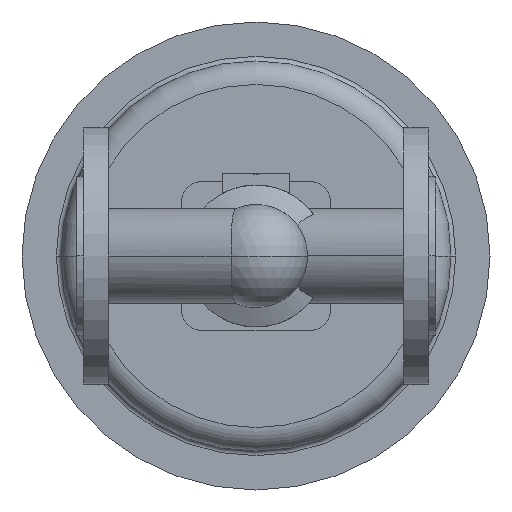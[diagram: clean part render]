
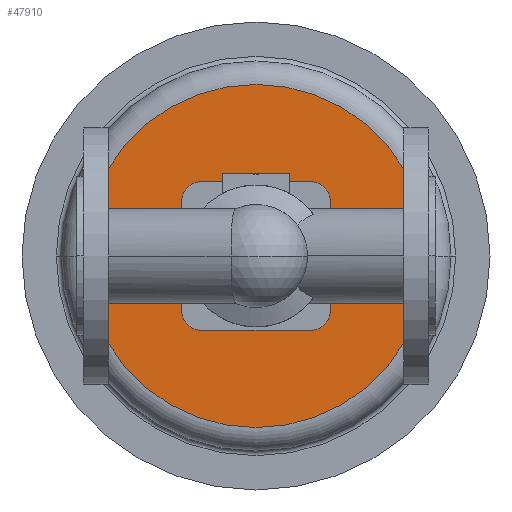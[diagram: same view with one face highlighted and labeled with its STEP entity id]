
A CAD part, front view. The second image highlights one B-rep face of the part: STEP entity #47910.
In plain terms, the highlighted planar face has unit normal (0, -1, 0).
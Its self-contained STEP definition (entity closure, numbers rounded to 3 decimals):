
#34390=CARTESIAN_POINT('',(5.,369.,0.));
#34400=VERTEX_POINT('',#34390);
#34430=CARTESIAN_POINT('',(115.,369.,0.));
#34440=DIRECTION('',(0.,1.,0.));
#34450=DIRECTION('',(1.,0.,0.));
#34460=AXIS2_PLACEMENT_3D('',#34430,#34440,#34450);
#34470=CIRCLE('',#34460,110.);
#34480=CARTESIAN_POINT('',(115.,369.,-110.));
#34490=VERTEX_POINT('',#34480);
#34500=EDGE_CURVE('',#34490,#34400,#34470,.T.);
#34520=CARTESIAN_POINT('',(225.,369.,0.));
#34530=VERTEX_POINT('',#34520);
#34540=EDGE_CURVE('',#34530,#34490,#34470,.T.);
#35210=CARTESIAN_POINT('',(150.,369.,0.));
#35220=VERTEX_POINT('',#35210);
#35380=CARTESIAN_POINT('',(180.,369.,0.));
#35390=VERTEX_POINT('',#35380);
#35420=CARTESIAN_POINT('',(165.,369.,0.));
#35430=DIRECTION('',(0.,1.,0.));
#35440=DIRECTION('',(1.,0.,0.));
#35450=AXIS2_PLACEMENT_3D('',#35420,#35430,#35440);
#35460=CIRCLE('',#35450,15.);
#35470=EDGE_CURVE('',#35390,#35220,#35460,.T.);
#35630=CARTESIAN_POINT('',(50.,369.,0.));
#35640=VERTEX_POINT('',#35630);
#35800=CARTESIAN_POINT('',(80.,369.,0.));
#35810=VERTEX_POINT('',#35800);
#35840=CARTESIAN_POINT('',(65.,369.,0.));
#35850=DIRECTION('',(0.,1.,0.));
#35860=DIRECTION('',(1.,0.,0.));
#35870=AXIS2_PLACEMENT_3D('',#35840,#35850,#35860);
#35880=CIRCLE('',#35870,15.);
#35890=EDGE_CURVE('',#35810,#35640,#35880,.T.);
#36030=CARTESIAN_POINT('',(96.55,369.,0.));
#36040=VERTEX_POINT('',#36030);
#36220=CARTESIAN_POINT('',(133.45,369.,0.));
#36230=VERTEX_POINT('',#36220);
#36260=CARTESIAN_POINT('',(115.,369.,0.));
#36270=DIRECTION('',(0.,1.,0.));
#36280=DIRECTION('',(1.,0.,0.));
#36290=AXIS2_PLACEMENT_3D('',#36260,#36270,#36280);
#36300=CIRCLE('',#36290,18.45);
#36310=EDGE_CURVE('',#36230,#36040,#36300,.T.);
#47650=CARTESIAN_POINT('',(170.,369.,0.));
#47660=DIRECTION('',(0.,-1.,0.));
#47670=DIRECTION('',(-1.,0.,0.));
#47680=AXIS2_PLACEMENT_3D('',#47650,#47660,#47670);
#47690=PLANE('',#47680);
#47700=EDGE_CURVE('',#36040,#36230,#36300,.T.);
#47710=ORIENTED_EDGE('',*,*,#47700,.T.);
#47720=ORIENTED_EDGE('',*,*,#36310,.T.);
#47730=EDGE_LOOP('',(#47720,#47710));
#47740=FACE_BOUND('',#47730,.T.);
#47750=EDGE_CURVE('',#35640,#35810,#35880,.T.);
#47760=ORIENTED_EDGE('',*,*,#47750,.T.);
#47770=ORIENTED_EDGE('',*,*,#35890,.T.);
#47780=EDGE_LOOP('',(#47770,#47760));
#47790=FACE_BOUND('',#47780,.T.);
#47800=EDGE_CURVE('',#35220,#35390,#35460,.T.);
#47810=ORIENTED_EDGE('',*,*,#47800,.T.);
#47820=ORIENTED_EDGE('',*,*,#35470,.T.);
#47830=EDGE_LOOP('',(#47820,#47810));
#47840=FACE_BOUND('',#47830,.T.);
#47850=ORIENTED_EDGE('',*,*,#34500,.F.);
#47860=EDGE_CURVE('',#34400,#34530,#34470,.T.);
#47870=ORIENTED_EDGE('',*,*,#47860,.F.);
#47880=ORIENTED_EDGE('',*,*,#34540,.F.);
#47890=EDGE_LOOP('',(#47880,#47870,#47850));
#47900=FACE_OUTER_BOUND('',#47890,.T.);
#47910=ADVANCED_FACE('',(#47740,#47790,#47840,#47900),#47690,.T.);
